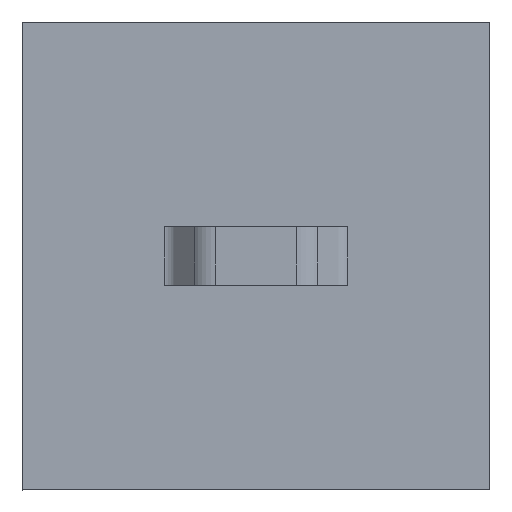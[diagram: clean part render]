
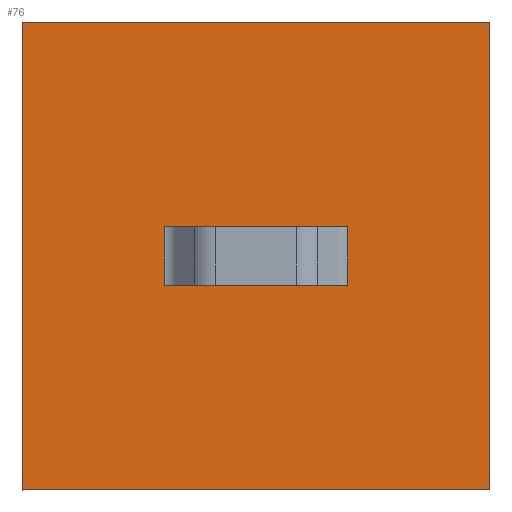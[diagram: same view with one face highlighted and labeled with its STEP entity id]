
A CAD part, top view. The second image highlights one B-rep face of the part: STEP entity #76.
In plain terms, the highlighted planar face has unit normal (0, 0, 1).
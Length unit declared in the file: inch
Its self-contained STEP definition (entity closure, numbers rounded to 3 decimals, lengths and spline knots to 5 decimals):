
#76=ADVANCED_FACE('',(#102,#103),#104,.T.);
#102=FACE_BOUND('',#152,.T.);
#103=FACE_OUTER_BOUND('',#153,.T.);
#104=PLANE('',#154);
#152=EDGE_LOOP('',(#207,#208,#209,#210,#211,#212,#213,#214));
#153=EDGE_LOOP('',(#215,#216,#217,#218));
#154=AXIS2_PLACEMENT_3D('',#219,#220,#221);
#207=ORIENTED_EDGE('',*,*,#412,.T.);
#208=ORIENTED_EDGE('',*,*,#413,.T.);
#209=ORIENTED_EDGE('',*,*,#414,.T.);
#210=ORIENTED_EDGE('',*,*,#415,.F.);
#211=ORIENTED_EDGE('',*,*,#416,.T.);
#212=ORIENTED_EDGE('',*,*,#417,.T.);
#213=ORIENTED_EDGE('',*,*,#418,.T.);
#214=ORIENTED_EDGE('',*,*,#419,.F.);
#215=ORIENTED_EDGE('',*,*,#420,.T.);
#216=ORIENTED_EDGE('',*,*,#421,.T.);
#217=ORIENTED_EDGE('',*,*,#422,.T.);
#218=ORIENTED_EDGE('',*,*,#423,.T.);
#219=CARTESIAN_POINT('',(7.25,4.04,0.064));
#220=DIRECTION('',(0.0,0.0,1.0));
#221=DIRECTION('',(1.0,0.0,0.0));
#412=EDGE_CURVE('',#484,#485,#486,.T.);
#413=EDGE_CURVE('',#485,#487,#488,.F.);
#414=EDGE_CURVE('',#487,#489,#490,.F.);
#415=EDGE_CURVE('',#491,#489,#492,.T.);
#416=EDGE_CURVE('',#491,#493,#494,.F.);
#417=EDGE_CURVE('',#493,#495,#496,.F.);
#418=EDGE_CURVE('',#495,#497,#498,.F.);
#419=EDGE_CURVE('',#484,#497,#499,.T.);
#420=EDGE_CURVE('',#500,#501,#502,.F.);
#421=EDGE_CURVE('',#501,#503,#504,.F.);
#422=EDGE_CURVE('',#503,#505,#506,.T.);
#423=EDGE_CURVE('',#505,#500,#507,.T.);
#484=VERTEX_POINT('',#600);
#485=VERTEX_POINT('',#601);
#486=LINE('',#602,#603);
#487=VERTEX_POINT('',#604);
#488=LINE('',#605,#606);
#489=VERTEX_POINT('',#607);
#490=LINE('',#608,#609);
#491=VERTEX_POINT('',#610);
#492=LINE('',#611,#612);
#493=VERTEX_POINT('',#613);
#494=LINE('',#614,#615);
#495=VERTEX_POINT('',#616);
#496=LINE('',#617,#618);
#497=VERTEX_POINT('',#619);
#498=LINE('',#620,#621);
#499=LINE('',#622,#623);
#500=VERTEX_POINT('',#624);
#501=VERTEX_POINT('',#625);
#502=LINE('',#626,#627);
#503=VERTEX_POINT('',#628);
#504=LINE('',#629,#630);
#505=VERTEX_POINT('',#631);
#506=LINE('',#632,#633);
#507=LINE('',#634,#635);
#600=CARTESIAN_POINT('',(2.51814,7.04,0.064));
#601=CARTESIAN_POINT('',(2.404,7.04,0.064));
#602=CARTESIAN_POINT('',(4.578,7.04,0.064));
#603=VECTOR('',#756,1.0);
#604=CARTESIAN_POINT('',(1.846,7.04,0.064));
#605=CARTESIAN_POINT('',(4.578,7.04,0.064));
#606=VECTOR('',#757,1.0);
#607=CARTESIAN_POINT('',(1.73186,7.04,0.064));
#608=CARTESIAN_POINT('',(4.578,7.04,0.064));
#609=VECTOR('',#758,1.0);
#610=CARTESIAN_POINT('',(1.73186,7.29,0.064));
#611=CARTESIAN_POINT('',(1.73186,5.665,0.064));
#612=VECTOR('',#759,1.0);
#613=CARTESIAN_POINT('',(1.846,7.29,0.064));
#614=CARTESIAN_POINT('',(4.578,7.29,0.064));
#615=VECTOR('',#760,1.0);
#616=CARTESIAN_POINT('',(2.404,7.29,0.064));
#617=CARTESIAN_POINT('',(4.578,7.29,0.064));
#618=VECTOR('',#761,1.0);
#619=CARTESIAN_POINT('',(2.51814,7.29,0.064));
#620=CARTESIAN_POINT('',(4.578,7.29,0.064));
#621=VECTOR('',#762,1.0);
#622=CARTESIAN_POINT('',(2.51814,5.54,0.064));
#623=VECTOR('',#763,1.0);
#624=CARTESIAN_POINT('',(3.125,8.165,0.064));
#625=CARTESIAN_POINT('',(1.125,8.165,0.064));
#626=CARTESIAN_POINT('',(25088.89287,8.165,0.064));
#627=VECTOR('',#764,1.0);
#628=CARTESIAN_POINT('',(1.125,6.165,0.064));
#629=CARTESIAN_POINT('',(1.125,56841.74172,0.064));
#630=VECTOR('',#765,1.0);
#631=CARTESIAN_POINT('',(3.125,6.165,0.064));
#632=CARTESIAN_POINT('',(119264.60076,6.165,0.064));
#633=VECTOR('',#766,1.0);
#634=CARTESIAN_POINT('',(3.125,49525.88256,0.064));
#635=VECTOR('',#767,1.0);
#756=DIRECTION('',(-1.0,0.,0.0));
#757=DIRECTION('',(1.0,0.,-0.0));
#758=DIRECTION('',(1.0,0.,-0.0));
#759=DIRECTION('',(0.,-1.0,0.0));
#760=DIRECTION('',(-1.0,0.,0.0));
#761=DIRECTION('',(-1.0,0.,0.0));
#762=DIRECTION('',(-1.0,0.,0.0));
#763=DIRECTION('',(0.,1.0,0.0));
#764=DIRECTION('',(1.0,0.0,-0.0));
#765=DIRECTION('',(0.0,1.0,0.0));
#766=DIRECTION('',(1.0,0.0,-0.0));
#767=DIRECTION('',(0.0,1.0,0.0));
